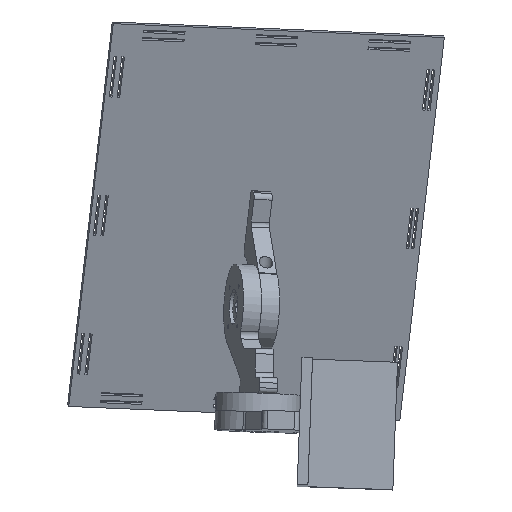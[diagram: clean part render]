
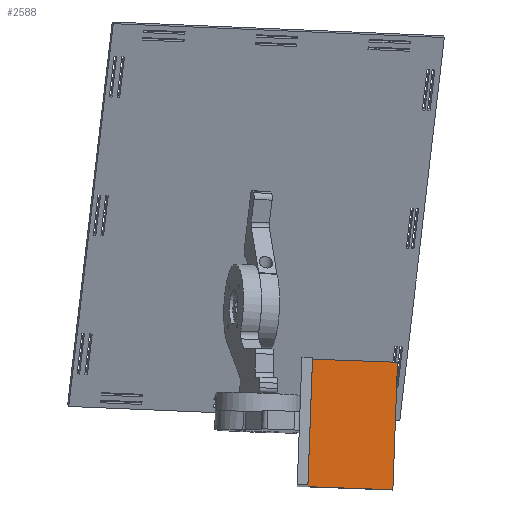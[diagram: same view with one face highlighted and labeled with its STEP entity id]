
A CAD part, front view. The second image highlights one B-rep face of the part: STEP entity #2588.
In plain terms, the highlighted planar face has unit normal (0, -1, 0.024) as drawn and (0, -1, 0) by its records, which use the part's own axes.
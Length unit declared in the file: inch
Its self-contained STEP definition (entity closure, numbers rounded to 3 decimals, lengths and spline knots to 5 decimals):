
#276 = DIRECTION ( 'NONE',  ( 1., 0., 0. ) ) ;
#436 = VECTOR ( 'NONE', #12372, 39.37008 ) ;
#623 = DIRECTION ( 'NONE',  ( 0., 0., 1. ) ) ;
#1395 = CARTESIAN_POINT ( 'NONE',  ( 6., 3.5, 4.5 ) ) ;
#1638 = CARTESIAN_POINT ( 'NONE',  ( 0., 3.5, 4.5 ) ) ;
#2200 = DIRECTION ( 'NONE',  ( 0., 0., -1. ) ) ;
#2588 = ADVANCED_FACE ( 'NONE', ( #6772 ), #4792, .F. ) ;
#2694 = ORIENTED_EDGE ( 'NONE', *, *, #5149, .F. ) ;
#2795 = EDGE_CURVE ( 'NONE', #2816, #4379, #4443, .T. ) ;
#2816 = VERTEX_POINT ( 'NONE', #11541 ) ;
#3038 = CARTESIAN_POINT ( 'NONE',  ( 0., 3.5, 4.5 ) ) ;
#3807 = EDGE_CURVE ( 'NONE', #5017, #10462, #6353, .T. ) ;
#4379 = VERTEX_POINT ( 'NONE', #11054 ) ;
#4443 = LINE ( 'NONE', #5466, #5723 ) ;
#4792 = PLANE ( 'NONE',  #9588 ) ;
#5017 = VERTEX_POINT ( 'NONE', #7192 ) ;
#5149 = EDGE_CURVE ( 'NONE', #10462, #4379, #7068, .T. ) ;
#5270 = EDGE_CURVE ( 'NONE', #5017, #2816, #9609, .T. ) ;
#5384 = VECTOR ( 'NONE', #2200, 39.37008 ) ;
#5466 = CARTESIAN_POINT ( 'NONE',  ( 0., 3.5, 0.5 ) ) ;
#5723 = VECTOR ( 'NONE', #276, 39.37008 ) ;
#6138 = ORIENTED_EDGE ( 'NONE', *, *, #2795, .T. ) ;
#6353 = LINE ( 'NONE', #3038, #13135 ) ;
#6693 = ORIENTED_EDGE ( 'NONE', *, *, #5270, .T. ) ;
#6772 = FACE_OUTER_BOUND ( 'NONE', #10086, .T. ) ;
#7068 = LINE ( 'NONE', #13194, #436 ) ;
#7192 = CARTESIAN_POINT ( 'NONE',  ( 0., 3.5, 4.5 ) ) ;
#9310 = DIRECTION ( 'NONE',  ( 1., 0., 0. ) ) ;
#9588 = AXIS2_PLACEMENT_3D ( 'NONE', #1638, #10001, #623 ) ;
#9609 = LINE ( 'NONE', #11573, #5384 ) ;
#10001 = DIRECTION ( 'NONE',  ( 0., 1., 0. ) ) ;
#10086 = EDGE_LOOP ( 'NONE', ( #6138, #2694, #12873, #6693 ) ) ;
#10462 = VERTEX_POINT ( 'NONE', #1395 ) ;
#11054 = CARTESIAN_POINT ( 'NONE',  ( 6., 3.5, 0.5 ) ) ;
#11541 = CARTESIAN_POINT ( 'NONE',  ( 0., 3.5, 0.5 ) ) ;
#11573 = CARTESIAN_POINT ( 'NONE',  ( 0., 3.5, 4.5 ) ) ;
#12372 = DIRECTION ( 'NONE',  ( 0., 0., -1. ) ) ;
#12873 = ORIENTED_EDGE ( 'NONE', *, *, #3807, .F. ) ;
#13135 = VECTOR ( 'NONE', #9310, 39.37008 ) ;
#13194 = CARTESIAN_POINT ( 'NONE',  ( 6., 3.5, 4.5 ) ) ;
